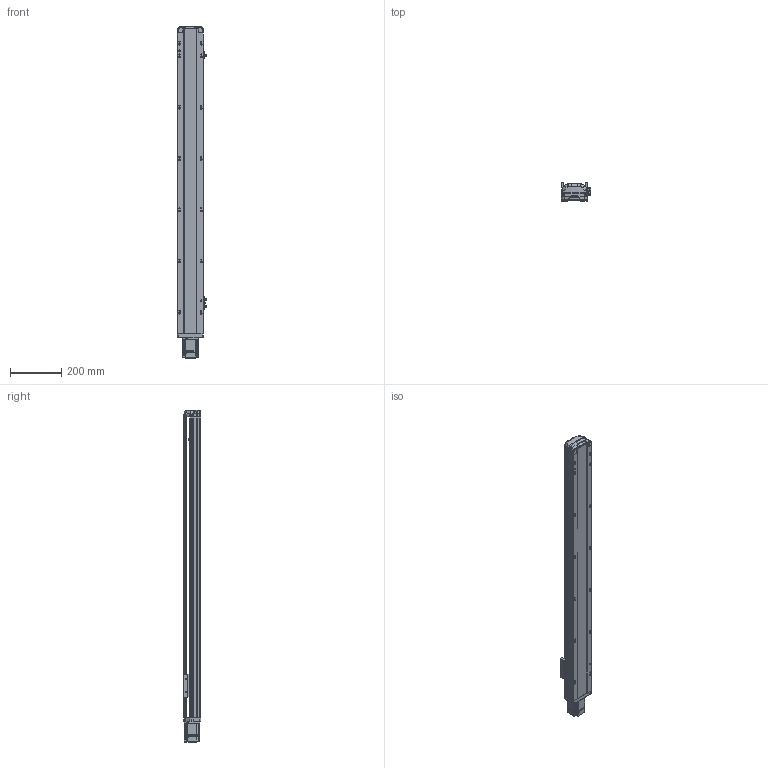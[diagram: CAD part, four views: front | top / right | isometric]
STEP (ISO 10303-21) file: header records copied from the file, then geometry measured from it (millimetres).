
FILE_DESCRIPTION (( 'STEP AP214' ), '1' );
FILE_NAME ('RTH10-XX-950-E-M20-C4.STEP', '2025-10-24T10:48:27', ( '' ), ( '' ), 'SwSTEP 2.0', 'SolidWorks 2018', '' );
FILE_SCHEMA (( 'AUTOMOTIVE_DESIGN' ));
Length unit declared in the file: millimetre
Products named in the file (9): RTH10-XX-950-E-M20-C4; N_RTH12-E-011P-臏倰第菁釱^RTH10-XX-XX-E-M20-C4ㄗ源最宒ㄘ; N_RTH12-GY-004-滑座^RTH10-XX-XX-E-M20-C4（方程式）; N_RTH12-E-007P-奻裔^RTH10-XX-XX-E-M20-C4ㄗ源最宒ㄘ; N_RTH12-E-008-M20电机板^RTH10-XX-XX-E-M20-C4（方程式）; N_RTH12-GY-001P^RTH10-XX-XX-E-M20-C4（方程式）; N_RTH13-L-012感应片外置^RTH10-XX-XX-E-M20-C4（方程式）; N_200W-1^RTH10-XX-XX-E-M20-C4（方程式）; N_OMRON EE-SX672 換覜ん^RTH10-XX-XX-E-M20-C4ㄗ源最宒ㄘ
Assembly tree (10 placements, depth 2):
  RTH10-XX-950-E-M20-C4
    N_RTH12-E-011P-臏倰第菁釱^RTH10-XX-XX-E-M20-C4ㄗ源最宒ㄘ
    N_RTH13-L-012感应片外置^RTH10-XX-XX-E-M20-C4（方程式）
    N_OMRON EE-SX672 換覜ん^RTH10-XX-XX-E-M20-C4ㄗ源最宒ㄘ  x3
    N_RTH12-E-007P-奻裔^RTH10-XX-XX-E-M20-C4ㄗ源最宒ㄘ
    N_RTH12-GY-001P^RTH10-XX-XX-E-M20-C4（方程式）
    N_RTH12-GY-004-滑座^RTH10-XX-XX-E-M20-C4（方程式）
    N_200W-1^RTH10-XX-XX-E-M20-C4（方程式）
    N_RTH12-E-008-M20电机板^RTH10-XX-XX-E-M20-C4（方程式）
Bounding box: 116.5 x 70 x 1295.31 mm (x, y, z)
Volume: 4900660.7 mm3; surface area: 754009.9 mm2
Topology: 9 solids, 11 shells, 2048 faces, 5716 edges, 3754 vertices
Faces by surface type: plane 1016, cylinder 525, bspline 472, cone 33, torus 2
Entity records: 62070 total; most frequent: CARTESIAN_POINT 23962, ORIENTED_EDGE 8512, DIRECTION 6672, EDGE_CURVE 4262, VERTEX_POINT 2798, VECTOR 2280, LINE 2280, AXIS2_PLACEMENT_3D 2196
